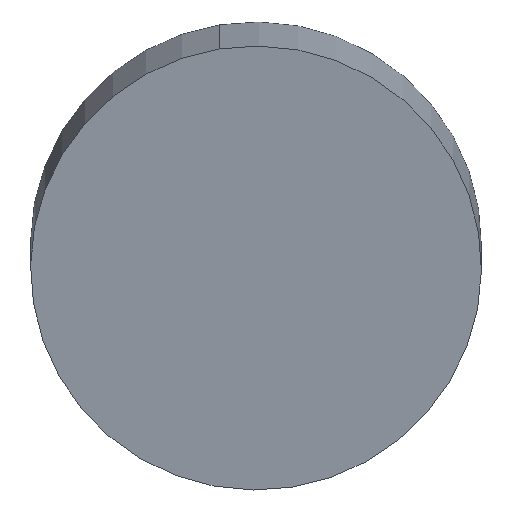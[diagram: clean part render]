
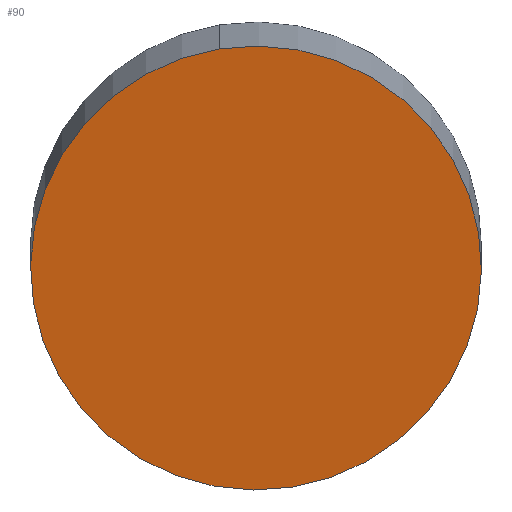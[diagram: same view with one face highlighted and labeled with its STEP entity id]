
A CAD part, left-side view. The second image highlights one B-rep face of the part: STEP entity #90.
In plain terms, the highlighted planar face has unit normal (-0.985, 0, -0.174) as drawn and (0, 0, -1) by its records, which use the part's own axes.
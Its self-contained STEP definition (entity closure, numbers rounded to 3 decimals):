
#4 = FACE_OUTER_BOUND ( 'NONE', #52, .T. ) ;
#20 = AXIS2_PLACEMENT_3D ( 'NONE', #161, #60, #26 ) ;
#22 = CARTESIAN_POINT ( 'NONE',  ( 0., 0., -13.5 ) ) ;
#26 = DIRECTION ( 'NONE',  ( 1., 0., 0. ) ) ;
#31 = AXIS2_PLACEMENT_3D ( 'NONE', #147, #56, #121 ) ;
#34 = EDGE_CURVE ( 'NONE', #80, #110, #143, .T. ) ;
#37 = EDGE_CURVE ( 'NONE', #110, #80, #41, .T. ) ;
#41 = CIRCLE ( 'NONE', #31, 44. ) ;
#50 = AXIS2_PLACEMENT_3D ( 'NONE', #22, #81, #156 ) ;
#52 = EDGE_LOOP ( 'NONE', ( #137, #62 ) ) ;
#56 = DIRECTION ( 'NONE',  ( 0., 0., 1. ) ) ;
#57 = CARTESIAN_POINT ( 'NONE',  ( 44., 0., -13.5 ) ) ;
#60 = DIRECTION ( 'NONE',  ( 0., 0., 1. ) ) ;
#62 = ORIENTED_EDGE ( 'NONE', *, *, #34, .F. ) ;
#80 = VERTEX_POINT ( 'NONE', #57 ) ;
#81 = DIRECTION ( 'NONE',  ( 0., 0., 1. ) ) ;
#90 = ADVANCED_FACE ( 'NONE', ( #4 ), #169, .F. ) ;
#98 = CARTESIAN_POINT ( 'NONE',  ( -44., 0., -13.5 ) ) ;
#110 = VERTEX_POINT ( 'NONE', #98 ) ;
#121 = DIRECTION ( 'NONE',  ( 1., 0., 0. ) ) ;
#137 = ORIENTED_EDGE ( 'NONE', *, *, #37, .F. ) ;
#143 = CIRCLE ( 'NONE', #50, 44. ) ;
#147 = CARTESIAN_POINT ( 'NONE',  ( 0., 0., -13.5 ) ) ;
#156 = DIRECTION ( 'NONE',  ( 1., 0., 0. ) ) ;
#161 = CARTESIAN_POINT ( 'NONE',  ( 0., 0., -13.5 ) ) ;
#169 = PLANE ( 'NONE',  #20 ) ;
